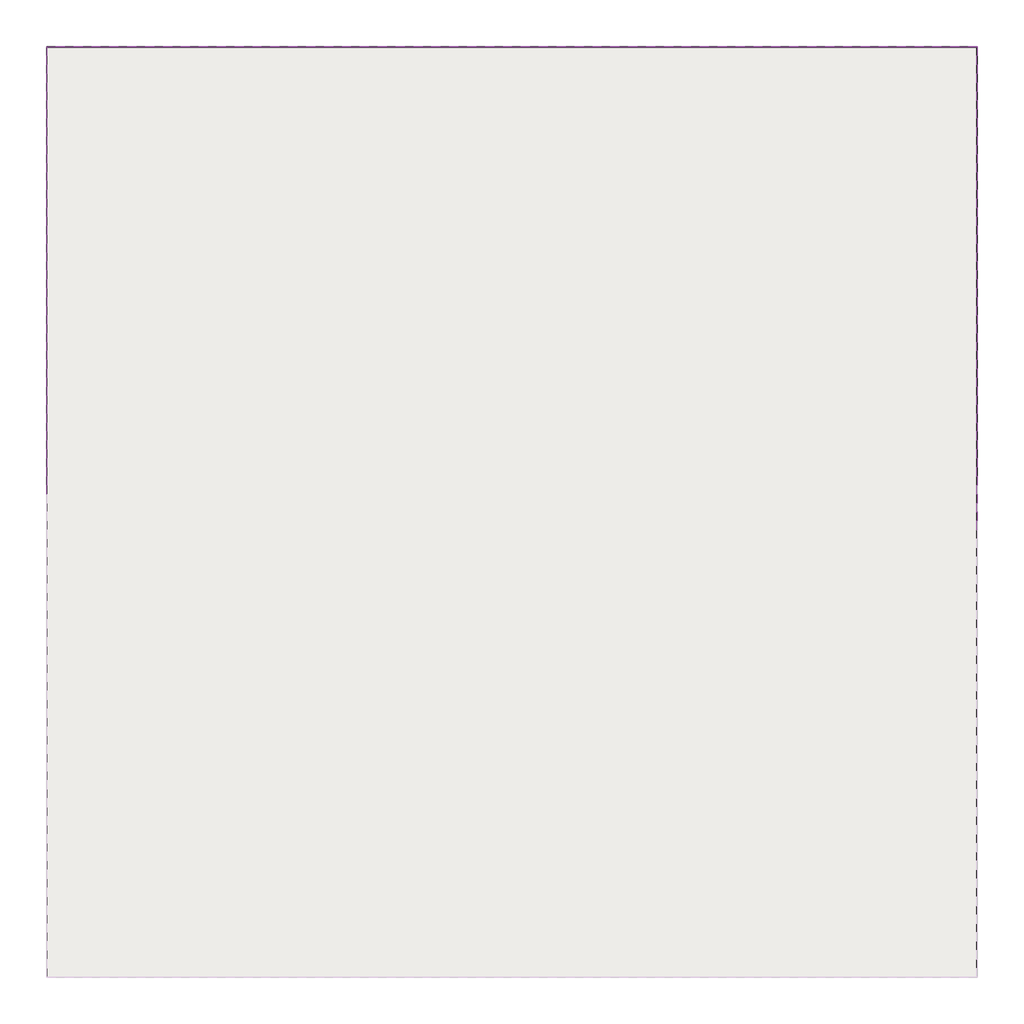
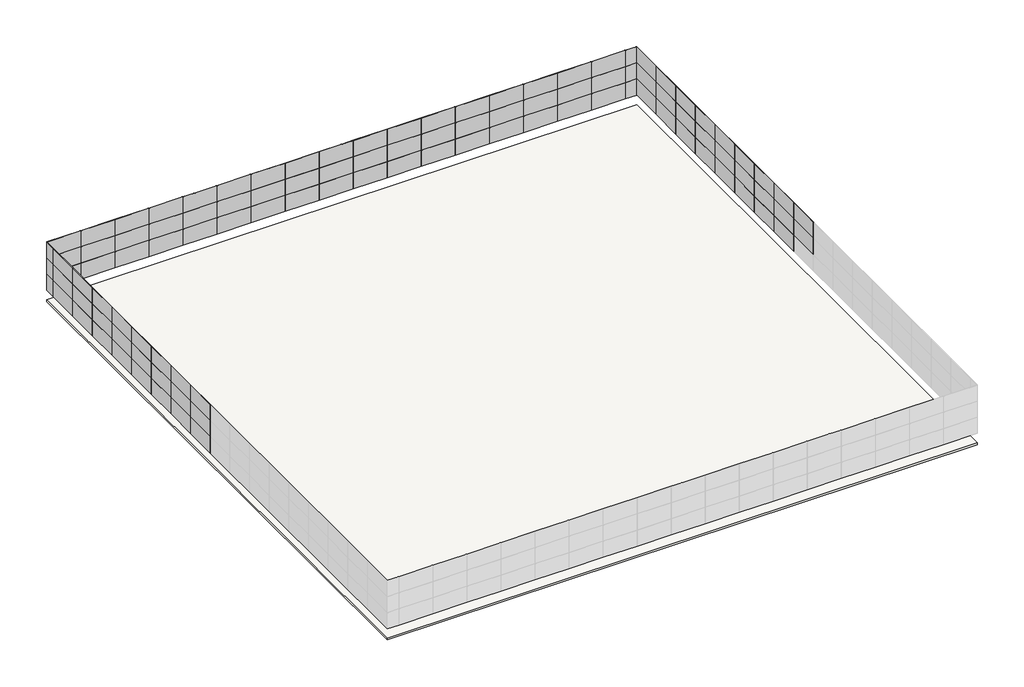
# One storey, part 2 of 2: 107 plates, 2 slabs.
"""IFC4 building model written with IfcOpenShell, lengths in millimetres."""

from ifc_helpers import new_model, si_unit, frame, origin, place, context, project, spatial, polyline, outline, extrude, transform, mapped, element, save
from components import plate_b491c4e8, plate_da1865bf, plate_41d8d65b, plate_87ba7e3f

model = new_model("IFC4")

# Units and contexts
model_context = context("Model", 3, world=origin())
ifc_project = project(units=[si_unit("LENGTHUNIT", "METRE", prefix="MILLI")], contexts=[model_context])

# Site, building, storey
site = spatial("IfcSite", under=ifc_project)
building = spatial("IfcBuilding", under=site)
storey = spatial("IfcBuildingStorey", under=building, Name="标高 3", Elevation=9600.0)

# Plates
placement = place(None, origin())
plate_shape = plate_b491c4e8(model_context)
element("IfcPlate", 1, ObjectType="系统嵌板 : 玻璃", at=placement, inside=storey, context=model_context, shape_type="MappedRepresentation", body=[
    mapped(plate_shape, transform((30694.7947586, 23251.3686437, 10500.0), x_axis=(0.0, -1.0, 0.0), y_axis=(1.0, 0.0, 0.0), z_axis=(0.0, 0.0, 1.0))),
])
element("IfcPlate", 2, ObjectType="系统嵌板 : 玻璃", at=placement, inside=storey, context=model_context, shape_type="MappedRepresentation", body=[
    mapped(plate_shape, transform((30694.7947586, 20251.3686437, 10500.0), x_axis=(0.0, -1.0, 0.0), y_axis=(1.0, 0.0, 0.0), z_axis=(0.0, 0.0, 1.0))),
])
element("IfcPlate", 3, ObjectType="系统嵌板 : 玻璃", at=placement, inside=storey, context=model_context, shape_type="MappedRepresentation", body=[
    mapped(plate_shape, transform((30694.7947586, 17251.3686437, 10500.0), x_axis=(0.0, -1.0, 0.0), y_axis=(1.0, 0.0, 0.0), z_axis=(0.0, 0.0, 1.0))),
])
element("IfcPlate", 4, ObjectType="系统嵌板 : 玻璃", at=placement, inside=storey, context=model_context, shape_type="MappedRepresentation", body=[
    mapped(plate_shape, transform((30694.7947586, 14251.3686437, 10500.0), x_axis=(0.0, -1.0, 0.0), y_axis=(1.0, 0.0, 0.0), z_axis=(0.0, 0.0, 1.0))),
])
element("IfcPlate", 5, ObjectType="系统嵌板 : 玻璃", at=placement, inside=storey, context=model_context, shape_type="MappedRepresentation", body=[
    mapped(plate_shape, transform((30694.7947586, 11251.3686437, 10500.0), x_axis=(0.0, -1.0, 0.0), y_axis=(1.0, 0.0, 0.0), z_axis=(0.0, 0.0, 1.0))),
])
element("IfcPlate", 6, ObjectType="系统嵌板 : 玻璃", at=placement, inside=storey, context=model_context, shape_type="MappedRepresentation", body=[
    mapped(plate_shape, transform((30694.7947586, 8251.3686437, 10500.0), x_axis=(0.0, -1.0, 0.0), y_axis=(1.0, 0.0, 0.0), z_axis=(0.0, 0.0, 1.0))),
])
element("IfcPlate", 7, ObjectType="系统嵌板 : 玻璃", at=placement, inside=storey, context=model_context, shape_type="MappedRepresentation", body=[
    mapped(plate_shape, transform((30694.7947586, 5251.3686437, 10500.0), x_axis=(0.0, -1.0, 0.0), y_axis=(1.0, 0.0, 0.0), z_axis=(0.0, 0.0, 1.0))),
])
element("IfcPlate", 8, ObjectType="系统嵌板 : 玻璃", at=placement, inside=storey, context=model_context, shape_type="MappedRepresentation", body=[
    mapped(plate_shape, transform((30694.7947586, 2251.3686437, 10500.0), x_axis=(0.0, -1.0, 0.0), y_axis=(1.0, 0.0, 0.0), z_axis=(0.0, 0.0, 1.0))),
])
element("IfcPlate", 9, ObjectType="系统嵌板 : 玻璃", at=placement, inside=storey, context=model_context, shape_type="MappedRepresentation", body=[
    mapped(plate_shape, transform((30694.7947586, 23251.3686437, 12000.0), x_axis=(0.0, -1.0, 0.0), y_axis=(1.0, 0.0, 0.0), z_axis=(0.0, 0.0, 1.0))),
])
element("IfcPlate", 10, ObjectType="系统嵌板 : 玻璃", at=placement, inside=storey, context=model_context, shape_type="MappedRepresentation", body=[
    mapped(plate_shape, transform((30694.7947586, 20251.3686437, 12000.0), x_axis=(0.0, -1.0, 0.0), y_axis=(1.0, 0.0, 0.0), z_axis=(0.0, 0.0, 1.0))),
])
element("IfcPlate", 11, ObjectType="系统嵌板 : 玻璃", at=placement, inside=storey, context=model_context, shape_type="MappedRepresentation", body=[
    mapped(plate_shape, transform((30694.7947586, 17251.3686437, 12000.0), x_axis=(0.0, -1.0, 0.0), y_axis=(1.0, 0.0, 0.0), z_axis=(0.0, 0.0, 1.0))),
])
element("IfcPlate", 12, ObjectType="系统嵌板 : 玻璃", at=placement, inside=storey, context=model_context, shape_type="MappedRepresentation", body=[
    mapped(plate_shape, transform((30694.7947586, 14251.3686437, 12000.0), x_axis=(0.0, -1.0, 0.0), y_axis=(1.0, 0.0, 0.0), z_axis=(0.0, 0.0, 1.0))),
])
element("IfcPlate", 13, ObjectType="系统嵌板 : 玻璃", at=placement, inside=storey, context=model_context, shape_type="MappedRepresentation", body=[
    mapped(plate_shape, transform((30694.7947586, 11251.3686437, 12000.0), x_axis=(0.0, -1.0, 0.0), y_axis=(1.0, 0.0, 0.0), z_axis=(0.0, 0.0, 1.0))),
])
element("IfcPlate", 14, ObjectType="系统嵌板 : 玻璃", at=placement, inside=storey, context=model_context, shape_type="MappedRepresentation", body=[
    mapped(plate_shape, transform((30694.7947586, 8251.3686437, 12000.0), x_axis=(0.0, -1.0, 0.0), y_axis=(1.0, 0.0, 0.0), z_axis=(0.0, 0.0, 1.0))),
])
element("IfcPlate", 15, ObjectType="系统嵌板 : 玻璃", at=placement, inside=storey, context=model_context, shape_type="MappedRepresentation", body=[
    mapped(plate_shape, transform((30694.7947586, 5251.3686437, 12000.0), x_axis=(0.0, -1.0, 0.0), y_axis=(1.0, 0.0, 0.0), z_axis=(0.0, 0.0, 1.0))),
])
element("IfcPlate", 16, ObjectType="系统嵌板 : 玻璃", at=placement, inside=storey, context=model_context, shape_type="MappedRepresentation", body=[
    mapped(plate_shape, transform((30694.7947586, 2251.3686437, 12000.0), x_axis=(0.0, -1.0, 0.0), y_axis=(1.0, 0.0, 0.0), z_axis=(0.0, 0.0, 1.0))),
])
element("IfcPlate", 17, ObjectType="系统嵌板 : 玻璃", at=placement, inside=storey, context=model_context, shape_type="MappedRepresentation", body=[
    mapped(plate_shape, transform((30694.7947586, -748.6313563, 12000.0), x_axis=(0.0, -1.0, 0.0), y_axis=(1.0, 0.0, 0.0), z_axis=(0.0, 0.0, 1.0))),
])
element("IfcPlate", 18, ObjectType="系统嵌板 : 玻璃", at=placement, inside=storey, context=model_context, shape_type="MappedRepresentation", body=[
    mapped(plate_shape, transform((30694.7947586, 23251.3686437, 13500.0), x_axis=(0.0, -1.0, 0.0), y_axis=(1.0, 0.0, 0.0), z_axis=(0.0, 0.0, 1.0))),
])
element("IfcPlate", 19, ObjectType="系统嵌板 : 玻璃", at=placement, inside=storey, context=model_context, shape_type="MappedRepresentation", body=[
    mapped(plate_shape, transform((30694.7947586, 20251.3686437, 13500.0), x_axis=(0.0, -1.0, 0.0), y_axis=(1.0, 0.0, 0.0), z_axis=(0.0, 0.0, 1.0))),
])
element("IfcPlate", 20, ObjectType="系统嵌板 : 玻璃", at=placement, inside=storey, context=model_context, shape_type="MappedRepresentation", body=[
    mapped(plate_shape, transform((30694.7947586, 17251.3686437, 13500.0), x_axis=(0.0, -1.0, 0.0), y_axis=(1.0, 0.0, 0.0), z_axis=(0.0, 0.0, 1.0))),
])
element("IfcPlate", 21, ObjectType="系统嵌板 : 玻璃", at=placement, inside=storey, context=model_context, shape_type="MappedRepresentation", body=[
    mapped(plate_shape, transform((30694.7947586, 14251.3686437, 13500.0), x_axis=(0.0, -1.0, 0.0), y_axis=(1.0, 0.0, 0.0), z_axis=(0.0, 0.0, 1.0))),
])
element("IfcPlate", 22, ObjectType="系统嵌板 : 玻璃", at=placement, inside=storey, context=model_context, shape_type="MappedRepresentation", body=[
    mapped(plate_shape, transform((30694.7947586, 8251.3686437, 13500.0), x_axis=(0.0, -1.0, 0.0), y_axis=(1.0, 0.0, 0.0), z_axis=(0.0, 0.0, 1.0))),
])
element("IfcPlate", 23, ObjectType="系统嵌板 : 玻璃", at=placement, inside=storey, context=model_context, shape_type="MappedRepresentation", body=[
    mapped(plate_shape, transform((30694.7947586, 5251.3686437, 13500.0), x_axis=(0.0, -1.0, 0.0), y_axis=(1.0, 0.0, 0.0), z_axis=(0.0, 0.0, 1.0))),
])
element("IfcPlate", 24, ObjectType="系统嵌板 : 玻璃", at=placement, inside=storey, context=model_context, shape_type="MappedRepresentation", body=[
    mapped(plate_shape, transform((30694.7947586, 2251.3686437, 13500.0), x_axis=(0.0, -1.0, 0.0), y_axis=(1.0, 0.0, 0.0), z_axis=(0.0, 0.0, 1.0))),
])
element("IfcPlate", 25, ObjectType="系统嵌板 : 玻璃", at=placement, inside=storey, context=model_context, shape_type="MappedRepresentation", body=[
    mapped(plate_shape, transform((-19805.2052414, 24751.3686437, 10500.0), x_axis=(1.0, 0.0, 0.0), y_axis=(0.0, 1.0, 0.0), z_axis=(0.0, 0.0, 1.0))),
])
element("IfcPlate", 26, ObjectType="系统嵌板 : 玻璃", at=placement, inside=storey, context=model_context, shape_type="MappedRepresentation", body=[
    mapped(plate_shape, transform((-16805.2052414, 24751.3686437, 10500.0), x_axis=(1.0, 0.0, 0.0), y_axis=(0.0, 1.0, 0.0), z_axis=(0.0, 0.0, 1.0))),
])
element("IfcPlate", 27, ObjectType="系统嵌板 : 玻璃", at=placement, inside=storey, context=model_context, shape_type="MappedRepresentation", body=[
    mapped(plate_shape, transform((-13805.2052414, 24751.3686437, 10500.0), x_axis=(1.0, 0.0, 0.0), y_axis=(0.0, 1.0, 0.0), z_axis=(0.0, 0.0, 1.0))),
])
element("IfcPlate", 28, ObjectType="系统嵌板 : 玻璃", at=placement, inside=storey, context=model_context, shape_type="MappedRepresentation", body=[
    mapped(plate_shape, transform((-10805.2052414, 24751.3686437, 10500.0), x_axis=(1.0, 0.0, 0.0), y_axis=(0.0, 1.0, 0.0), z_axis=(0.0, 0.0, 1.0))),
])
element("IfcPlate", 29, ObjectType="系统嵌板 : 玻璃", at=placement, inside=storey, context=model_context, shape_type="MappedRepresentation", body=[
    mapped(plate_shape, transform((-7805.2052414, 24751.3686437, 10500.0), x_axis=(1.0, 0.0, 0.0), y_axis=(0.0, 1.0, 0.0), z_axis=(0.0, 0.0, 1.0))),
])
element("IfcPlate", 30, ObjectType="系统嵌板 : 玻璃", at=placement, inside=storey, context=model_context, shape_type="MappedRepresentation", body=[
    mapped(plate_shape, transform((-4805.2052414, 24751.3686437, 10500.0), x_axis=(1.0, 0.0, 0.0), y_axis=(0.0, 1.0, 0.0), z_axis=(0.0, 0.0, 1.0))),
])
element("IfcPlate", 31, ObjectType="系统嵌板 : 玻璃", at=placement, inside=storey, context=model_context, shape_type="MappedRepresentation", body=[
    mapped(plate_shape, transform((-1805.2052414, 24751.3686437, 10500.0), x_axis=(1.0, 0.0, 0.0), y_axis=(0.0, 1.0, 0.0), z_axis=(0.0, 0.0, 1.0))),
])
element("IfcPlate", 32, ObjectType="系统嵌板 : 玻璃", at=placement, inside=storey, context=model_context, shape_type="MappedRepresentation", body=[
    mapped(plate_shape, transform((1194.7947586, 24751.3686437, 10500.0), x_axis=(1.0, 0.0, 0.0), y_axis=(0.0, 1.0, 0.0), z_axis=(0.0, 0.0, 1.0))),
])
element("IfcPlate", 33, ObjectType="系统嵌板 : 玻璃", at=placement, inside=storey, context=model_context, shape_type="MappedRepresentation", body=[
    mapped(plate_shape, transform((4194.7947586, 24751.3686437, 10500.0), x_axis=(1.0, 0.0, 0.0), y_axis=(0.0, 1.0, 0.0), z_axis=(0.0, 0.0, 1.0))),
])
element("IfcPlate", 34, ObjectType="系统嵌板 : 玻璃", at=placement, inside=storey, context=model_context, shape_type="MappedRepresentation", body=[
    mapped(plate_shape, transform((7194.7947586, 24751.3686437, 10500.0), x_axis=(1.0, 0.0, 0.0), y_axis=(0.0, 1.0, 0.0), z_axis=(0.0, 0.0, 1.0))),
])
element("IfcPlate", 35, ObjectType="系统嵌板 : 玻璃", at=placement, inside=storey, context=model_context, shape_type="MappedRepresentation", body=[
    mapped(plate_shape, transform((10194.7947586, 24751.3686437, 10500.0), x_axis=(1.0, 0.0, 0.0), y_axis=(0.0, 1.0, 0.0), z_axis=(0.0, 0.0, 1.0))),
])
element("IfcPlate", 36, ObjectType="系统嵌板 : 玻璃", at=placement, inside=storey, context=model_context, shape_type="MappedRepresentation", body=[
    mapped(plate_shape, transform((13194.7947586, 24751.3686437, 10500.0), x_axis=(1.0, 0.0, 0.0), y_axis=(0.0, 1.0, 0.0), z_axis=(0.0, 0.0, 1.0))),
])
element("IfcPlate", 37, ObjectType="系统嵌板 : 玻璃", at=placement, inside=storey, context=model_context, shape_type="MappedRepresentation", body=[
    mapped(plate_shape, transform((16194.7947586, 24751.3686437, 10500.0), x_axis=(1.0, 0.0, 0.0), y_axis=(0.0, 1.0, 0.0), z_axis=(0.0, 0.0, 1.0))),
])
element("IfcPlate", 38, ObjectType="系统嵌板 : 玻璃", at=placement, inside=storey, context=model_context, shape_type="MappedRepresentation", body=[
    mapped(plate_shape, transform((19194.7947586, 24751.3686437, 10500.0), x_axis=(1.0, 0.0, 0.0), y_axis=(0.0, 1.0, 0.0), z_axis=(0.0, 0.0, 1.0))),
])
element("IfcPlate", 39, ObjectType="系统嵌板 : 玻璃", at=placement, inside=storey, context=model_context, shape_type="MappedRepresentation", body=[
    mapped(plate_shape, transform((22194.7947586, 24751.3686437, 10500.0), x_axis=(1.0, 0.0, 0.0), y_axis=(0.0, 1.0, 0.0), z_axis=(0.0, 0.0, 1.0))),
])
element("IfcPlate", 40, ObjectType="系统嵌板 : 玻璃", at=placement, inside=storey, context=model_context, shape_type="MappedRepresentation", body=[
    mapped(plate_shape, transform((25194.7947586, 24751.3686437, 10500.0), x_axis=(1.0, 0.0, 0.0), y_axis=(0.0, 1.0, 0.0), z_axis=(0.0, 0.0, 1.0))),
])
element("IfcPlate", 41, ObjectType="系统嵌板 : 玻璃", at=placement, inside=storey, context=model_context, shape_type="MappedRepresentation", body=[
    mapped(plate_shape, transform((28194.7947586, 24751.3686437, 10500.0), x_axis=(1.0, 0.0, 0.0), y_axis=(0.0, 1.0, 0.0), z_axis=(0.0, 0.0, 1.0))),
])
element("IfcPlate", 42, ObjectType="系统嵌板 : 玻璃", at=placement, inside=storey, context=model_context, shape_type="MappedRepresentation", body=[
    mapped(plate_shape, transform((-19805.2052414, 24751.3686437, 12000.0), x_axis=(1.0, 0.0, 0.0), y_axis=(0.0, 1.0, 0.0), z_axis=(0.0, 0.0, 1.0))),
])
element("IfcPlate", 43, ObjectType="系统嵌板 : 玻璃", at=placement, inside=storey, context=model_context, shape_type="MappedRepresentation", body=[
    mapped(plate_shape, transform((-16805.2052414, 24751.3686437, 12000.0), x_axis=(1.0, 0.0, 0.0), y_axis=(0.0, 1.0, 0.0), z_axis=(0.0, 0.0, 1.0))),
])
element("IfcPlate", 44, ObjectType="系统嵌板 : 玻璃", at=placement, inside=storey, context=model_context, shape_type="MappedRepresentation", body=[
    mapped(plate_shape, transform((-13805.2052414, 24751.3686437, 12000.0), x_axis=(1.0, 0.0, 0.0), y_axis=(0.0, 1.0, 0.0), z_axis=(0.0, 0.0, 1.0))),
])
element("IfcPlate", 45, ObjectType="系统嵌板 : 玻璃", at=placement, inside=storey, context=model_context, shape_type="MappedRepresentation", body=[
    mapped(plate_shape, transform((-10805.2052414, 24751.3686437, 12000.0), x_axis=(1.0, 0.0, 0.0), y_axis=(0.0, 1.0, 0.0), z_axis=(0.0, 0.0, 1.0))),
])
element("IfcPlate", 46, ObjectType="系统嵌板 : 玻璃", at=placement, inside=storey, context=model_context, shape_type="MappedRepresentation", body=[
    mapped(plate_shape, transform((-7805.2052414, 24751.3686437, 12000.0), x_axis=(1.0, 0.0, 0.0), y_axis=(0.0, 1.0, 0.0), z_axis=(0.0, 0.0, 1.0))),
])
element("IfcPlate", 47, ObjectType="系统嵌板 : 玻璃", at=placement, inside=storey, context=model_context, shape_type="MappedRepresentation", body=[
    mapped(plate_shape, transform((-4805.2052414, 24751.3686437, 12000.0), x_axis=(1.0, 0.0, 0.0), y_axis=(0.0, 1.0, 0.0), z_axis=(0.0, 0.0, 1.0))),
])
element("IfcPlate", 48, ObjectType="系统嵌板 : 玻璃", at=placement, inside=storey, context=model_context, shape_type="MappedRepresentation", body=[
    mapped(plate_shape, transform((-1805.2052414, 24751.3686437, 12000.0), x_axis=(1.0, 0.0, 0.0), y_axis=(0.0, 1.0, 0.0), z_axis=(0.0, 0.0, 1.0))),
])
element("IfcPlate", 49, ObjectType="系统嵌板 : 玻璃", at=placement, inside=storey, context=model_context, shape_type="MappedRepresentation", body=[
    mapped(plate_shape, transform((1194.7947586, 24751.3686437, 12000.0), x_axis=(1.0, 0.0, 0.0), y_axis=(0.0, 1.0, 0.0), z_axis=(0.0, 0.0, 1.0))),
])
element("IfcPlate", 50, ObjectType="系统嵌板 : 玻璃", at=placement, inside=storey, context=model_context, shape_type="MappedRepresentation", body=[
    mapped(plate_shape, transform((4194.7947586, 24751.3686437, 12000.0), x_axis=(1.0, 0.0, 0.0), y_axis=(0.0, 1.0, 0.0), z_axis=(0.0, 0.0, 1.0))),
])
element("IfcPlate", 51, ObjectType="系统嵌板 : 玻璃", at=placement, inside=storey, context=model_context, shape_type="MappedRepresentation", body=[
    mapped(plate_shape, transform((7194.7947586, 24751.3686437, 12000.0), x_axis=(1.0, 0.0, 0.0), y_axis=(0.0, 1.0, 0.0), z_axis=(0.0, 0.0, 1.0))),
])
element("IfcPlate", 52, ObjectType="系统嵌板 : 玻璃", at=placement, inside=storey, context=model_context, shape_type="MappedRepresentation", body=[
    mapped(plate_shape, transform((10194.7947586, 24751.3686437, 12000.0), x_axis=(1.0, 0.0, 0.0), y_axis=(0.0, 1.0, 0.0), z_axis=(0.0, 0.0, 1.0))),
])
element("IfcPlate", 53, ObjectType="系统嵌板 : 玻璃", at=placement, inside=storey, context=model_context, shape_type="MappedRepresentation", body=[
    mapped(plate_shape, transform((13194.7947586, 24751.3686437, 12000.0), x_axis=(1.0, 0.0, 0.0), y_axis=(0.0, 1.0, 0.0), z_axis=(0.0, 0.0, 1.0))),
])
element("IfcPlate", 54, ObjectType="系统嵌板 : 玻璃", at=placement, inside=storey, context=model_context, shape_type="MappedRepresentation", body=[
    mapped(plate_shape, transform((16194.7947586, 24751.3686437, 12000.0), x_axis=(1.0, 0.0, 0.0), y_axis=(0.0, 1.0, 0.0), z_axis=(0.0, 0.0, 1.0))),
])
element("IfcPlate", 55, ObjectType="系统嵌板 : 玻璃", at=placement, inside=storey, context=model_context, shape_type="MappedRepresentation", body=[
    mapped(plate_shape, transform((19194.7947586, 24751.3686437, 12000.0), x_axis=(1.0, 0.0, 0.0), y_axis=(0.0, 1.0, 0.0), z_axis=(0.0, 0.0, 1.0))),
])
element("IfcPlate", 56, ObjectType="系统嵌板 : 玻璃", at=placement, inside=storey, context=model_context, shape_type="MappedRepresentation", body=[
    mapped(plate_shape, transform((22194.7947586, 24751.3686437, 12000.0), x_axis=(1.0, 0.0, 0.0), y_axis=(0.0, 1.0, 0.0), z_axis=(0.0, 0.0, 1.0))),
])
element("IfcPlate", 57, ObjectType="系统嵌板 : 玻璃", at=placement, inside=storey, context=model_context, shape_type="MappedRepresentation", body=[
    mapped(plate_shape, transform((25194.7947586, 24751.3686437, 12000.0), x_axis=(1.0, 0.0, 0.0), y_axis=(0.0, 1.0, 0.0), z_axis=(0.0, 0.0, 1.0))),
])
element("IfcPlate", 58, ObjectType="系统嵌板 : 玻璃", at=placement, inside=storey, context=model_context, shape_type="MappedRepresentation", body=[
    mapped(plate_shape, transform((28194.7947586, 24751.3686437, 12000.0), x_axis=(1.0, 0.0, 0.0), y_axis=(0.0, 1.0, 0.0), z_axis=(0.0, 0.0, 1.0))),
])
element("IfcPlate", 59, ObjectType="系统嵌板 : 玻璃", at=placement, inside=storey, context=model_context, shape_type="MappedRepresentation", body=[
    mapped(plate_shape, transform((-19805.2052414, 24751.3686437, 13500.0), x_axis=(1.0, 0.0, 0.0), y_axis=(0.0, 1.0, 0.0), z_axis=(0.0, 0.0, 1.0))),
])
element("IfcPlate", 60, ObjectType="系统嵌板 : 玻璃", at=placement, inside=storey, context=model_context, shape_type="MappedRepresentation", body=[
    mapped(plate_shape, transform((-16805.2052414, 24751.3686437, 13500.0), x_axis=(1.0, 0.0, 0.0), y_axis=(0.0, 1.0, 0.0), z_axis=(0.0, 0.0, 1.0))),
])
element("IfcPlate", 61, ObjectType="系统嵌板 : 玻璃", at=placement, inside=storey, context=model_context, shape_type="MappedRepresentation", body=[
    mapped(plate_shape, transform((-13805.2052414, 24751.3686437, 13500.0), x_axis=(1.0, 0.0, 0.0), y_axis=(0.0, 1.0, 0.0), z_axis=(0.0, 0.0, 1.0))),
])
element("IfcPlate", 62, ObjectType="系统嵌板 : 玻璃", at=placement, inside=storey, context=model_context, shape_type="MappedRepresentation", body=[
    mapped(plate_shape, transform((-10805.2052414, 24751.3686437, 13500.0), x_axis=(1.0, 0.0, 0.0), y_axis=(0.0, 1.0, 0.0), z_axis=(0.0, 0.0, 1.0))),
])
element("IfcPlate", 63, ObjectType="系统嵌板 : 玻璃", at=placement, inside=storey, context=model_context, shape_type="MappedRepresentation", body=[
    mapped(plate_shape, transform((-4805.2052414, 24751.3686437, 13500.0), x_axis=(1.0, 0.0, 0.0), y_axis=(0.0, 1.0, 0.0), z_axis=(0.0, 0.0, 1.0))),
])
element("IfcPlate", 64, ObjectType="系统嵌板 : 玻璃", at=placement, inside=storey, context=model_context, shape_type="MappedRepresentation", body=[
    mapped(plate_shape, transform((-1805.2052414, 24751.3686437, 13500.0), x_axis=(1.0, 0.0, 0.0), y_axis=(0.0, 1.0, 0.0), z_axis=(0.0, 0.0, 1.0))),
])
element("IfcPlate", 65, ObjectType="系统嵌板 : 玻璃", at=placement, inside=storey, context=model_context, shape_type="MappedRepresentation", body=[
    mapped(plate_shape, transform((1194.7947586, 24751.3686437, 13500.0), x_axis=(1.0, 0.0, 0.0), y_axis=(0.0, 1.0, 0.0), z_axis=(0.0, 0.0, 1.0))),
])
element("IfcPlate", 66, ObjectType="系统嵌板 : 玻璃", at=placement, inside=storey, context=model_context, shape_type="MappedRepresentation", body=[
    mapped(plate_shape, transform((7194.7947586, 24751.3686437, 13500.0), x_axis=(1.0, 0.0, 0.0), y_axis=(0.0, 1.0, 0.0), z_axis=(0.0, 0.0, 1.0))),
])
element("IfcPlate", 67, ObjectType="系统嵌板 : 玻璃", at=placement, inside=storey, context=model_context, shape_type="MappedRepresentation", body=[
    mapped(plate_shape, transform((10194.7947586, 24751.3686437, 13500.0), x_axis=(1.0, 0.0, 0.0), y_axis=(0.0, 1.0, 0.0), z_axis=(0.0, 0.0, 1.0))),
])
element("IfcPlate", 68, ObjectType="系统嵌板 : 玻璃", at=placement, inside=storey, context=model_context, shape_type="MappedRepresentation", body=[
    mapped(plate_shape, transform((13194.7947586, 24751.3686437, 13500.0), x_axis=(1.0, 0.0, 0.0), y_axis=(0.0, 1.0, 0.0), z_axis=(0.0, 0.0, 1.0))),
])
element("IfcPlate", 69, ObjectType="系统嵌板 : 玻璃", at=placement, inside=storey, context=model_context, shape_type="MappedRepresentation", body=[
    mapped(plate_shape, transform((16194.7947586, 24751.3686437, 13500.0), x_axis=(1.0, 0.0, 0.0), y_axis=(0.0, 1.0, 0.0), z_axis=(0.0, 0.0, 1.0))),
])
element("IfcPlate", 70, ObjectType="系统嵌板 : 玻璃", at=placement, inside=storey, context=model_context, shape_type="MappedRepresentation", body=[
    mapped(plate_shape, transform((19194.7947586, 24751.3686437, 13500.0), x_axis=(1.0, 0.0, 0.0), y_axis=(0.0, 1.0, 0.0), z_axis=(0.0, 0.0, 1.0))),
])
element("IfcPlate", 71, ObjectType="系统嵌板 : 玻璃", at=placement, inside=storey, context=model_context, shape_type="MappedRepresentation", body=[
    mapped(plate_shape, transform((22194.7947586, 24751.3686437, 13500.0), x_axis=(1.0, 0.0, 0.0), y_axis=(0.0, 1.0, 0.0), z_axis=(0.0, 0.0, 1.0))),
])
element("IfcPlate", 72, ObjectType="系统嵌板 : 玻璃", at=placement, inside=storey, context=model_context, shape_type="MappedRepresentation", body=[
    mapped(plate_shape, transform((25194.7947586, 24751.3686437, 13500.0), x_axis=(1.0, 0.0, 0.0), y_axis=(0.0, 1.0, 0.0), z_axis=(0.0, 0.0, 1.0))),
])
element("IfcPlate", 73, ObjectType="系统嵌板 : 玻璃", at=placement, inside=storey, context=model_context, shape_type="MappedRepresentation", body=[
    mapped(plate_shape, transform((28194.7947586, 24751.3686437, 13500.0), x_axis=(1.0, 0.0, 0.0), y_axis=(0.0, 1.0, 0.0), z_axis=(0.0, 0.0, 1.0))),
])
element("IfcPlate", 74, ObjectType="系统嵌板 : 玻璃", at=placement, inside=storey, context=model_context, shape_type="MappedRepresentation", body=[
    mapped(plate_shape, transform((-21305.2052414, 1251.3686437, 10500.0), x_axis=(0.0, 1.0, 0.0), y_axis=(-1.0, 0.0, 0.0), z_axis=(0.0, 0.0, 1.0))),
])
element("IfcPlate", 75, ObjectType="系统嵌板 : 玻璃", at=placement, inside=storey, context=model_context, shape_type="MappedRepresentation", body=[
    mapped(plate_shape, transform((-21305.2052414, 4251.3686437, 10500.0), x_axis=(0.0, 1.0, 0.0), y_axis=(-1.0, 0.0, 0.0), z_axis=(0.0, 0.0, 1.0))),
])
element("IfcPlate", 76, ObjectType="系统嵌板 : 玻璃", at=placement, inside=storey, context=model_context, shape_type="MappedRepresentation", body=[
    mapped(plate_shape, transform((-21305.2052414, 7251.3686437, 10500.0), x_axis=(0.0, 1.0, 0.0), y_axis=(-1.0, 0.0, 0.0), z_axis=(0.0, 0.0, 1.0))),
])
element("IfcPlate", 77, ObjectType="系统嵌板 : 玻璃", at=placement, inside=storey, context=model_context, shape_type="MappedRepresentation", body=[
    mapped(plate_shape, transform((-21305.2052414, 10251.3686437, 10500.0), x_axis=(0.0, 1.0, 0.0), y_axis=(-1.0, 0.0, 0.0), z_axis=(0.0, 0.0, 1.0))),
])
element("IfcPlate", 78, ObjectType="系统嵌板 : 玻璃", at=placement, inside=storey, context=model_context, shape_type="MappedRepresentation", body=[
    mapped(plate_shape, transform((-21305.2052414, 13251.3686437, 10500.0), x_axis=(0.0, 1.0, 0.0), y_axis=(-1.0, 0.0, 0.0), z_axis=(0.0, 0.0, 1.0))),
])
element("IfcPlate", 79, ObjectType="系统嵌板 : 玻璃", at=placement, inside=storey, context=model_context, shape_type="MappedRepresentation", body=[
    mapped(plate_shape, transform((-21305.2052414, 16251.3686437, 10500.0), x_axis=(0.0, 1.0, 0.0), y_axis=(-1.0, 0.0, 0.0), z_axis=(0.0, 0.0, 1.0))),
])
element("IfcPlate", 80, ObjectType="系统嵌板 : 玻璃", at=placement, inside=storey, context=model_context, shape_type="MappedRepresentation", body=[
    mapped(plate_shape, transform((-21305.2052414, 19251.3686437, 10500.0), x_axis=(0.0, 1.0, 0.0), y_axis=(-1.0, 0.0, 0.0), z_axis=(0.0, 0.0, 1.0))),
])
element("IfcPlate", 81, ObjectType="系统嵌板 : 玻璃", at=placement, inside=storey, context=model_context, shape_type="MappedRepresentation", body=[
    mapped(plate_shape, transform((-21305.2052414, 22251.3686437, 10500.0), x_axis=(0.0, 1.0, 0.0), y_axis=(-1.0, 0.0, 0.0), z_axis=(0.0, 0.0, 1.0))),
])
element("IfcPlate", 82, ObjectType="系统嵌板 : 玻璃", at=placement, inside=storey, context=model_context, shape_type="MappedRepresentation", body=[
    mapped(plate_shape, transform((-21305.2052414, 1251.3686437, 12000.0), x_axis=(0.0, 1.0, 0.0), y_axis=(-1.0, 0.0, 0.0), z_axis=(0.0, 0.0, 1.0))),
])
element("IfcPlate", 83, ObjectType="系统嵌板 : 玻璃", at=placement, inside=storey, context=model_context, shape_type="MappedRepresentation", body=[
    mapped(plate_shape, transform((-21305.2052414, 4251.3686437, 12000.0), x_axis=(0.0, 1.0, 0.0), y_axis=(-1.0, 0.0, 0.0), z_axis=(0.0, 0.0, 1.0))),
])
element("IfcPlate", 84, ObjectType="系统嵌板 : 玻璃", at=placement, inside=storey, context=model_context, shape_type="MappedRepresentation", body=[
    mapped(plate_shape, transform((-21305.2052414, 7251.3686437, 12000.0), x_axis=(0.0, 1.0, 0.0), y_axis=(-1.0, 0.0, 0.0), z_axis=(0.0, 0.0, 1.0))),
])
element("IfcPlate", 85, ObjectType="系统嵌板 : 玻璃", at=placement, inside=storey, context=model_context, shape_type="MappedRepresentation", body=[
    mapped(plate_shape, transform((-21305.2052414, 10251.3686437, 12000.0), x_axis=(0.0, 1.0, 0.0), y_axis=(-1.0, 0.0, 0.0), z_axis=(0.0, 0.0, 1.0))),
])
element("IfcPlate", 86, ObjectType="系统嵌板 : 玻璃", at=placement, inside=storey, context=model_context, shape_type="MappedRepresentation", body=[
    mapped(plate_shape, transform((-21305.2052414, 13251.3686437, 12000.0), x_axis=(0.0, 1.0, 0.0), y_axis=(-1.0, 0.0, 0.0), z_axis=(0.0, 0.0, 1.0))),
])
element("IfcPlate", 87, ObjectType="系统嵌板 : 玻璃", at=placement, inside=storey, context=model_context, shape_type="MappedRepresentation", body=[
    mapped(plate_shape, transform((-21305.2052414, 16251.3686437, 12000.0), x_axis=(0.0, 1.0, 0.0), y_axis=(-1.0, 0.0, 0.0), z_axis=(0.0, 0.0, 1.0))),
])
element("IfcPlate", 88, ObjectType="系统嵌板 : 玻璃", at=placement, inside=storey, context=model_context, shape_type="MappedRepresentation", body=[
    mapped(plate_shape, transform((-21305.2052414, 19251.3686437, 12000.0), x_axis=(0.0, 1.0, 0.0), y_axis=(-1.0, 0.0, 0.0), z_axis=(0.0, 0.0, 1.0))),
])
element("IfcPlate", 89, ObjectType="系统嵌板 : 玻璃", at=placement, inside=storey, context=model_context, shape_type="MappedRepresentation", body=[
    mapped(plate_shape, transform((-21305.2052414, 22251.3686437, 12000.0), x_axis=(0.0, 1.0, 0.0), y_axis=(-1.0, 0.0, 0.0), z_axis=(0.0, 0.0, 1.0))),
])
element("IfcPlate", 90, ObjectType="系统嵌板 : 玻璃", at=placement, inside=storey, context=model_context, shape_type="MappedRepresentation", body=[
    mapped(plate_shape, transform((-21305.2052414, 1251.3686437, 13500.0), x_axis=(0.0, 1.0, 0.0), y_axis=(-1.0, 0.0, 0.0), z_axis=(0.0, 0.0, 1.0))),
])
element("IfcPlate", 91, ObjectType="系统嵌板 : 玻璃", at=placement, inside=storey, context=model_context, shape_type="MappedRepresentation", body=[
    mapped(plate_shape, transform((-21305.2052414, 4251.3686437, 13500.0), x_axis=(0.0, 1.0, 0.0), y_axis=(-1.0, 0.0, 0.0), z_axis=(0.0, 0.0, 1.0))),
])
element("IfcPlate", 92, ObjectType="系统嵌板 : 玻璃", at=placement, inside=storey, context=model_context, shape_type="MappedRepresentation", body=[
    mapped(plate_shape, transform((-21305.2052414, 7251.3686437, 13500.0), x_axis=(0.0, 1.0, 0.0), y_axis=(-1.0, 0.0, 0.0), z_axis=(0.0, 0.0, 1.0))),
])
element("IfcPlate", 93, ObjectType="系统嵌板 : 玻璃", at=placement, inside=storey, context=model_context, shape_type="MappedRepresentation", body=[
    mapped(plate_shape, transform((-21305.2052414, 10251.3686437, 13500.0), x_axis=(0.0, 1.0, 0.0), y_axis=(-1.0, 0.0, 0.0), z_axis=(0.0, 0.0, 1.0))),
])
element("IfcPlate", 94, ObjectType="系统嵌板 : 玻璃", at=placement, inside=storey, context=model_context, shape_type="MappedRepresentation", body=[
    mapped(plate_shape, transform((-21305.2052414, 13251.3686437, 13500.0), x_axis=(0.0, 1.0, 0.0), y_axis=(-1.0, 0.0, 0.0), z_axis=(0.0, 0.0, 1.0))),
])
element("IfcPlate", 95, ObjectType="系统嵌板 : 玻璃", at=placement, inside=storey, context=model_context, shape_type="MappedRepresentation", body=[
    mapped(plate_shape, transform((-21305.2052414, 16251.3686437, 13500.0), x_axis=(0.0, 1.0, 0.0), y_axis=(-1.0, 0.0, 0.0), z_axis=(0.0, 0.0, 1.0))),
])
element("IfcPlate", 96, ObjectType="系统嵌板 : 玻璃", at=placement, inside=storey, context=model_context, shape_type="MappedRepresentation", body=[
    mapped(plate_shape, transform((-21305.2052414, 19251.3686437, 13500.0), x_axis=(0.0, 1.0, 0.0), y_axis=(-1.0, 0.0, 0.0), z_axis=(0.0, 0.0, 1.0))),
])
element("IfcPlate", 97, ObjectType="系统嵌板 : 玻璃", at=placement, inside=storey, context=model_context, shape_type="MappedRepresentation", body=[
    mapped(plate_shape, transform((-21305.2052414, 22251.3686437, 13500.0), x_axis=(0.0, 1.0, 0.0), y_axis=(-1.0, 0.0, 0.0), z_axis=(0.0, 0.0, 1.0))),
])
plate_2_shape = plate_da1865bf(model_context)
element("IfcPlate", 98, ObjectType="系统嵌板 : 玻璃", at=placement, inside=storey, context=model_context, shape_type="MappedRepresentation", body=[
    mapped(plate_2_shape, transform((30194.7947586, 24751.3686437, 10500.0), x_axis=(1.0, 0.0, 0.0), y_axis=(0.0, 1.0, 0.0), z_axis=(0.0, 0.0, 1.0))),
])
element("IfcPlate", 99, ObjectType="系统嵌板 : 玻璃", at=placement, inside=storey, context=model_context, shape_type="MappedRepresentation", body=[
    mapped(plate_2_shape, transform((30194.7947586, 24751.3686437, 12000.0), x_axis=(1.0, 0.0, 0.0), y_axis=(0.0, 1.0, 0.0), z_axis=(0.0, 0.0, 1.0))),
])
element("IfcPlate", 100, ObjectType="系统嵌板 : 玻璃", at=placement, inside=storey, context=model_context, shape_type="MappedRepresentation", body=[
    mapped(plate_2_shape, transform((30194.7947586, 24751.3686437, 13500.0), x_axis=(1.0, 0.0, 0.0), y_axis=(0.0, 1.0, 0.0), z_axis=(0.0, 0.0, 1.0))),
])
element("IfcPlate", 101, ObjectType="系统嵌板 : 玻璃", at=placement, inside=storey, context=model_context, shape_type="MappedRepresentation", body=[
    mapped(plate_2_shape, transform((-21305.2052414, 24251.3686437, 10500.0), x_axis=(0.0, 1.0, 0.0), y_axis=(-1.0, 0.0, 0.0), z_axis=(0.0, 0.0, 1.0))),
])
element("IfcPlate", 102, ObjectType="系统嵌板 : 玻璃", at=placement, inside=storey, context=model_context, shape_type="MappedRepresentation", body=[
    mapped(plate_2_shape, transform((-21305.2052414, 24251.3686437, 12000.0), x_axis=(0.0, 1.0, 0.0), y_axis=(-1.0, 0.0, 0.0), z_axis=(0.0, 0.0, 1.0))),
])
element("IfcPlate", 103, ObjectType="系统嵌板 : 玻璃", at=placement, inside=storey, context=model_context, shape_type="MappedRepresentation", body=[
    mapped(plate_2_shape, transform((-21305.2052414, 24251.3686437, 13500.0), x_axis=(0.0, 1.0, 0.0), y_axis=(-1.0, 0.0, 0.0), z_axis=(0.0, 0.0, 1.0))),
])
plate_3_shape = plate_41d8d65b(model_context)
element("IfcPlate", 104, ObjectType="系统嵌板 : 玻璃", at=placement, inside=storey, context=model_context, shape_type="MappedRepresentation", body=[
    mapped(plate_3_shape, transform((30694.7947586, 11251.3686437, 13500.0), x_axis=(0.0, -1.0, 0.0), y_axis=(1.0, 0.0, 0.0), z_axis=(0.0, 0.0, 1.0))),
])
element("IfcPlate", 105, ObjectType="系统嵌板 : 玻璃", at=placement, inside=storey, context=model_context, shape_type="MappedRepresentation", body=[
    mapped(plate_3_shape, transform((-7805.2052414, 24751.3686437, 13500.0), x_axis=(1.0, 0.0, 0.0), y_axis=(0.0, 1.0, 0.0), z_axis=(0.0, 0.0, 1.0))),
])
plate_4_shape = plate_87ba7e3f(model_context)
element("IfcPlate", 106, ObjectType="系统嵌板 : 玻璃", at=placement, inside=storey, context=model_context, shape_type="MappedRepresentation", body=[
    mapped(plate_4_shape, transform((30694.7947586, -748.6313563, 13500.0), x_axis=(0.0, -1.0, 0.0), y_axis=(1.0, 0.0, 0.0), z_axis=(0.0, 0.0, 1.0))),
])
element("IfcPlate", 107, ObjectType="系统嵌板 : 玻璃", at=placement, inside=storey, context=model_context, shape_type="MappedRepresentation", body=[
    mapped(plate_4_shape, transform((4194.7947586, 24751.3686437, 13500.0), x_axis=(1.0, 0.0, 0.0), y_axis=(0.0, 1.0, 0.0), z_axis=(0.0, 0.0, 1.0))),
])

# Slabs
element("IfcSlab", 108, ObjectType="常规 - 150mm", at=placement, inside=storey, context=model_context, shape_type="SweptSolid", body=[
    extrude(outline(polyline([(30694.7947586, -27248.6313563), (-21305.2052414, -27248.6313563), (-21305.2052414, 24751.3686437), (30694.7947586, 24751.3686437), (30694.7947586, -27248.6313563)])), frame((0.0, 0.0, 9450.0), z_axis=(0.0, 0.0, 1.0), x_axis=(1.0, 0.0, 0.0)), (0.0, 0.0, 1.0), 150.0),
])
element("IfcSlab", 109, ObjectType="常规 - 150mm", at=placement, inside=storey, context=model_context, shape_type="SweptSolid", body=[
    extrude(outline(polyline([(30694.7947586, -27248.6313563), (-21305.2052414, -27248.6313563), (-21305.2052414, 24751.3686437), (30694.7947586, 24751.3686437), (30694.7947586, -27248.6313563)])), frame((0.0, 0.0, 9450.0), z_axis=(0.0, 0.0, 1.0), x_axis=(1.0, 0.0, 0.0)), (0.0, 0.0, 1.0), 150.0),
])

save(model, "model.ifc")
